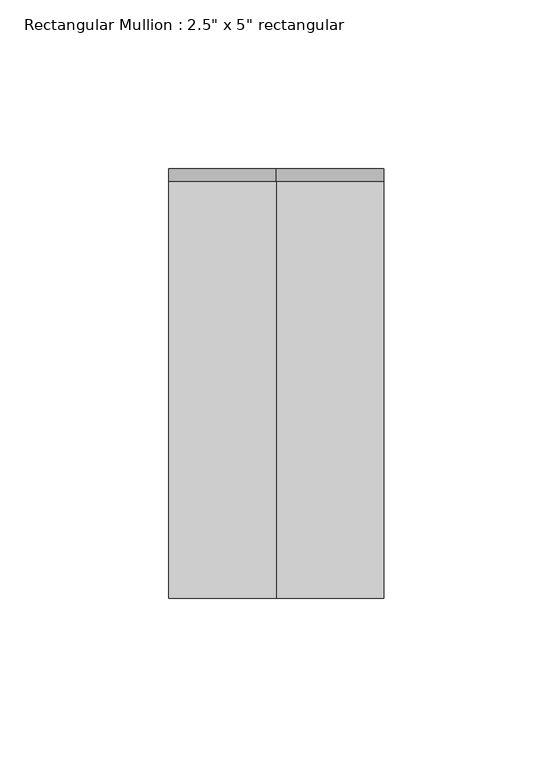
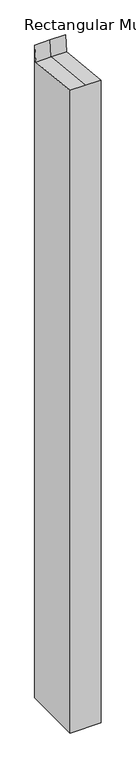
"""IFC4 building model written with IfcOpenShell, lengths in millimetres: member geometry."""

import ifcopenshell
import ifcopenshell.guid

model = None  # the IFC model being written
_history = None  # IfcOwnerHistory: only IFC2X3 demands one
_inside = {}  # id of a spatial element -> (the spatial element, [elements in it])
_under = {}  # id of a project, library or spatial element -> (it, [spatial elements below it])
_declared = {}  # id of a project -> (the project, [libraries it declares])
_typed = {}  # id of a type object -> (the type object, [elements of that type])
_made_of = {}  # id of a material, layer set ... -> (it, [elements and type objects made of it])


def new_model(schema):
    """Start an empty IFC model of exactly this schema.

    Asked for "IFC4X3", IfcOpenShell would pick the latest addendum, in which some entities
    have other attributes; the version numbers below select the first issue.
    IFC2X3 requires an IfcOwnerHistory on every rooted entity: one is made here for all.
    """
    global model, _history
    if schema == "IFC4X3":
        model = ifcopenshell.file(schema_version=(4, 3, 0, 0))
    else:
        model = ifcopenshell.file(schema=schema)
    _inside.clear()
    _under.clear()
    _declared.clear()
    _typed.clear()
    _made_of.clear()
    _history = None
    if model.schema == "IFC2X3":
        org = make("IfcOrganization", Name="unknown")
        user = make(
            "IfcPersonAndOrganization",
            ThePerson=make("IfcPerson", FamilyName="unknown"),
            TheOrganization=org,
        )
        app = make(
            "IfcApplication",
            ApplicationDeveloper=org,
            Version="unknown",
            ApplicationFullName="unknown",
            ApplicationIdentifier="unknown",
        )
        _history = make(
            "IfcOwnerHistory",
            OwningUser=user,
            OwningApplication=app,
            ChangeAction="ADDED",
            CreationDate=0,
        )
    return model


def make(cls, **values):
    """One entity of the class cls with the attributes given. An attribute that is None is left unset."""
    return model.create_entity(
        cls, **{name: value for name, value in values.items() if value is not None}
    )


def rooted(cls, **values):
    """An entity with a GlobalId (a new one), such as an element, a storey or a relation."""
    return make(cls, GlobalId=ifcopenshell.guid.new(), OwnerHistory=_history, **values)


def si_unit(unit_type, name, prefix=None):
    """IfcSIUnit, for example si_unit("LENGTHUNIT", "METRE", prefix="MILLI")."""
    return make("IfcSIUnit", UnitType=unit_type, Prefix=prefix, Name=name)


def assignment(units):
    """IfcUnitAssignment: the units of a project."""
    return None if units is None else make("IfcUnitAssignment", Units=units)


def point(xyz):
    """IfcCartesianPoint."""
    return None if xyz is None else make("IfcCartesianPoint", Coordinates=xyz)


def direction(xyz):
    """IfcDirection."""
    return None if xyz is None else make("IfcDirection", DirectionRatios=xyz)


def frame(location, z_axis=None, x_axis=None):
    """IfcAxis2Placement3D, a coordinate frame: its origin and axes. An axis left out is left unset."""
    return make(
        "IfcAxis2Placement3D",
        Location=point(location),
        Axis=direction(z_axis),
        RefDirection=direction(x_axis),
    )


def origin():
    """The frame at (0, 0, 0) with its axes left unset."""
    return frame((0.0, 0.0, 0.0))


def place(relative_to, where):
    """IfcLocalPlacement: puts the frame where relative to a parent placement (None: the world)."""
    return make(
        "IfcLocalPlacement", PlacementRelTo=relative_to, RelativePlacement=where
    )


def context(
    kind, dimensions, precision=None, world=None, true_north=None, identifier=None
):
    """IfcGeometricRepresentationContext, for example the 3D "Model" context."""
    return make(
        "IfcGeometricRepresentationContext",
        ContextIdentifier=identifier,
        ContextType=kind,
        CoordinateSpaceDimension=dimensions,
        Precision=precision,
        WorldCoordinateSystem=world,
        TrueNorth=true_north,
    )


def project(units=None, contexts=None):
    """IfcProject with its units and contexts."""
    return rooted(
        "IfcProject",
        Name="project",
        RepresentationContexts=contexts,
        UnitsInContext=assignment(units),
    )


def spatial(cls, under=None, at=None, **own):
    """A site, building, storey or space (cls), placed at a placement, below another one or the project."""
    s = rooted(cls, ObjectPlacement=at, **own)
    if under is not None:
        _under.setdefault(under.id(), (under, []))[1].append(s)
    return s


def faces_of(points, faces, orient=None, outer=None):
    """IfcFace entities. A face is a list of loops; a loop is a list of indices into points, from 0.

    orient and outer hold one flag for each loop. By default every Orientation is true, the
    first loop of a face is its IfcFaceOuterBound and the others are IfcFaceBound.
    """
    made = []
    for i, loops in enumerate(faces):
        bounds = []
        for j, loop in enumerate(loops):
            is_outer = j == 0 if outer is None else outer[i][j]
            bounds.append(
                make(
                    "IfcFaceOuterBound" if is_outer else "IfcFaceBound",
                    Bound=make("IfcPolyLoop", Polygon=[points[k] for k in loop]),
                    Orientation=True if orient is None else orient[i][j],
                )
            )
        made.append(make("IfcFace", Bounds=bounds))
    return made


def faceted_brep(points, faces, orient=None, outer=None, voids=None):
    """IfcFacetedBrep: a solid bounded by flat faces; with voids (closed shells), ...WithVoids."""
    shared = [point(p) for p in points]
    hull = make("IfcClosedShell", CfsFaces=faces_of(shared, faces, orient, outer))
    if voids is None:
        return make("IfcFacetedBrep", Outer=hull)
    return make(
        "IfcFacetedBrepWithVoids",
        Outer=hull,
        Voids=[
            make(cls, CfsFaces=faces_of(shared, fs, o, b)) for cls, fs, o, b in voids
        ],
    )


def shape(context_of_items, identifier, shape_type, items):
    """IfcShapeRepresentation: the items that make up one representation, for example the "Body"."""
    return make(
        "IfcShapeRepresentation",
        ContextOfItems=context_of_items,
        RepresentationIdentifier=identifier,
        RepresentationType=shape_type,
        Items=items,
    )


def source(mapping_origin, context_of_items, identifier, shape_type, items):
    """IfcRepresentationMap: a shape defined once, which mapped items show again and again."""
    return make(
        "IfcRepresentationMap",
        MappingOrigin=mapping_origin,
        MappedRepresentation=shape(context_of_items, identifier, shape_type, items),
    )


def transform(
    local_origin,
    x_axis=None,
    y_axis=None,
    z_axis=None,
    scale=None,
    scale2=None,
    scale3=None,
    uniform=True,
):
    """IfcCartesianTransformationOperator3D, or its non-uniform kind. x_axis, y_axis, z_axis: its Axis1, 2, 3."""
    if uniform:
        return make(
            "IfcCartesianTransformationOperator3D",
            Axis1=direction(x_axis),
            Axis2=direction(y_axis),
            LocalOrigin=point(local_origin),
            Scale=scale,
            Axis3=direction(z_axis),
        )
    return make(
        "IfcCartesianTransformationOperator3DnonUniform",
        Axis1=direction(x_axis),
        Axis2=direction(y_axis),
        LocalOrigin=point(local_origin),
        Scale=scale,
        Axis3=direction(z_axis),
        Scale2=scale2,
        Scale3=scale3,
    )


def mapped(mapping_source, mapping_target):
    """IfcMappedItem: shows the shape of a source again, moved by a transform."""
    return make(
        "IfcMappedItem", MappingSource=mapping_source, MappingTarget=mapping_target
    )


def made_of(thing, what):
    """Note that an element or type object is made of a material, layer set ...; save() writes the relation."""
    if what is not None:
        _made_of.setdefault(what.id(), (what, []))[1].append(thing)
    return thing


def element(
    cls,
    number,
    at=None,
    inside=None,
    cuts=None,
    type_object=None,
    material=None,
    context=None,
    identifier="Body",
    shape_type=None,
    held_by="IfcProductDefinitionShape",
    body=None,
    shapes=None,
    **own,
):
    """One element of the class cls, such as IfcWall. Its Tag is "e" and its number.

    at: its placement. inside: the storey or other place that contains it. cuts: it is an
    opening in that element (IfcRelVoidsElement). A single representation is given by context,
    identifier, shape_type and body (its items); several are given by shapes. held_by: the class
    of the entity that holds the representations. save() writes the other relations.
    """
    e = rooted(cls, Tag="e%d" % number, ObjectPlacement=at, **own)
    if body is not None:
        shapes = [shape(context, identifier, shape_type, body)]
    if shapes is not None:
        e.Representation = make(held_by, Representations=shapes)
    if inside is not None:
        _inside.setdefault(inside.id(), (inside, []))[1].append(e)
    if cuts is not None:
        rooted(
            "IfcRelVoidsElement", RelatingBuildingElement=cuts, RelatedOpeningElement=e
        )
    if type_object is not None:
        _typed.setdefault(type_object.id(), (type_object, []))[1].append(e)
    return made_of(e, material)


def aggregate(whole, parts):
    """IfcRelAggregates: a whole, such as a stair, and the parts it consists of."""
    return rooted("IfcRelAggregates", RelatingObject=whole, RelatedObjects=parts)


def save(model, path):
    """Write the relations noted so far, then the file.

    IfcRelAggregates (storeys below a building ...), IfcRelContainedInSpatialStructure (elements
    in a storey), IfcRelDefinesByType, IfcRelAssociatesMaterial and IfcRelDeclares: one each for
    every whole, place, type object, material and project.
    """
    for whole, parts in _under.values():
        aggregate(whole, parts)
    for where, things in _inside.values():
        rooted(
            "IfcRelContainedInSpatialStructure",
            RelatedElements=things,
            RelatingStructure=where,
        )
    for kind, things in _typed.values():
        rooted("IfcRelDefinesByType", RelatedObjects=things, RelatingType=kind)
    for what, things in _made_of.values():
        rooted("IfcRelAssociatesMaterial", RelatedObjects=things, RelatingMaterial=what)
    for by, libraries in _declared.values():
        rooted("IfcRelDeclares", RelatingContext=by, RelatedDefinitions=libraries)
    model.write(path)


def member_408f6c1a(model_context):
    return source(origin(), model_context, "Body", "Brep", [
        faceted_brep([(31.75, 63.5, -1397.2047853), (31.75, -63.5, -1397.2047853), (-31.75, -63.5, -1397.2047853), (-31.75, 63.5, -1397.2047853), (-31.75, 63.5, 28.422106), (0.0, 63.5, 28.422106), (31.75, 63.5, 28.422106), (-31.75, -63.5, 6.4992311), (-31.75, 59.8333616, -6.4636276), (31.75, -63.5, 6.4992311), (0.0, -63.5, 6.4992311), (31.75, 59.8333616, -6.4636276), (0.0, 59.8333616, -6.4636276)], [[[0, 1, 2, 3]], [[4, 5, 6, 0, 3]], [[7, 8, 4, 3, 2]], [[9, 10, 7, 2, 1]], [[6, 11, 9, 1, 0]], [[6, 5, 12, 11]], [[5, 4, 8, 12]], [[8, 7, 10, 12]], [[10, 9, 11, 12]]]),
    ])


if __name__ == "__main__":
    model = new_model("IFC4")
    model_context = context("Model", 3, world=origin())
    ifc_project = project(units=[si_unit("LENGTHUNIT", "METRE", prefix="MILLI")], contexts=[model_context])
    site = spatial("IfcSite", under=ifc_project)
    building = spatial("IfcBuilding", under=site)
    placement = place(None, origin())
    member_shape = member_408f6c1a(model_context)
    element("IfcMember", 1, ObjectType="Rectangular Mullion : 2.5\" x 5\" rectangular", at=placement, inside=building, context=model_context, shape_type="MappedRepresentation", body=[
        mapped(member_shape, transform((0.0, 0.0, 0.0), x_axis=(1.0, 0.0, 0.0), y_axis=(0.0, 1.0, 0.0), z_axis=(0.0, 0.0, 1.0))),
    ])
    save(model, "model.ifc")
